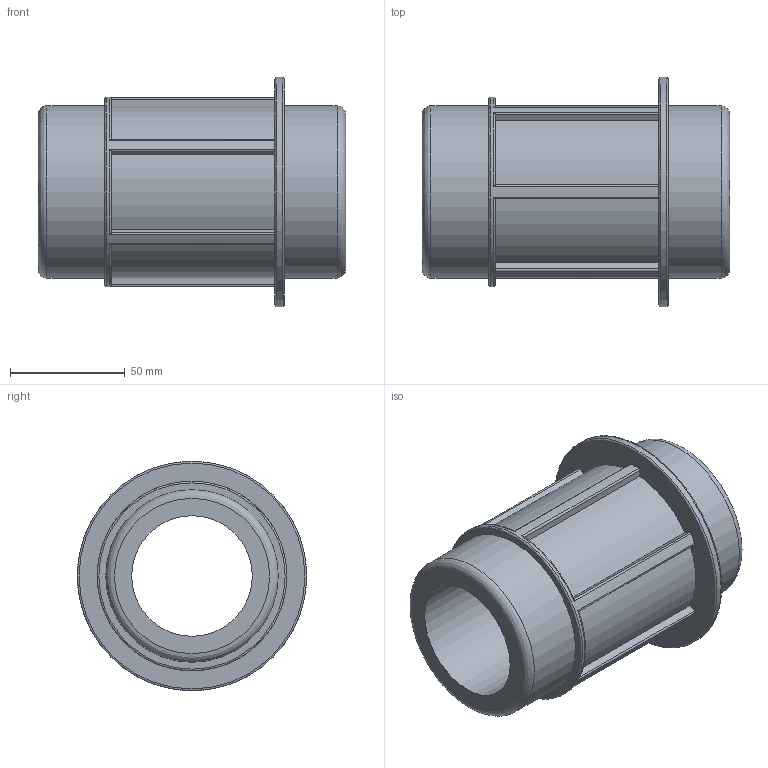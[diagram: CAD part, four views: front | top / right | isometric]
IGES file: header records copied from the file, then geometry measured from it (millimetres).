
Global section: file name: 078901075025.ipt; native system: Autodesk Inventor 2015; preprocessor: unknown; author: KIM; date: 20180409.130907; units: millimetre
Bounding box: 134 x 100 x 100 mm (x, y, z)
Volume: 327304.1 mm3; surface area: 68978.1 mm2
Topology: 1 solids, 1 shells, 57 faces, 163 edges, 111 vertices
Faces by surface type: plane 23, cylinder 22, revolution 12
Full cylindrical faces by diameter (mm): 75 x1, 75.184 x1, 82.702 x1, 100 x1
